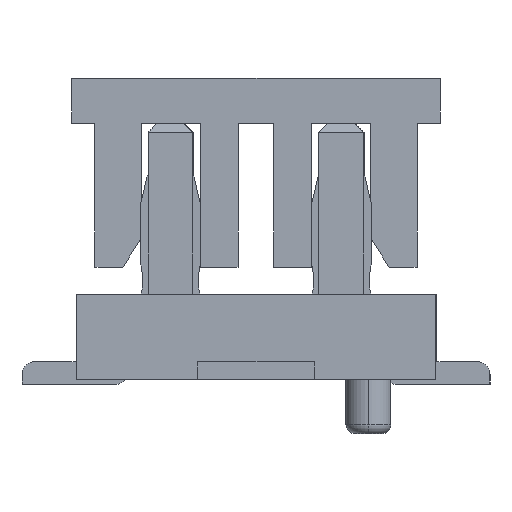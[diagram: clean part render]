
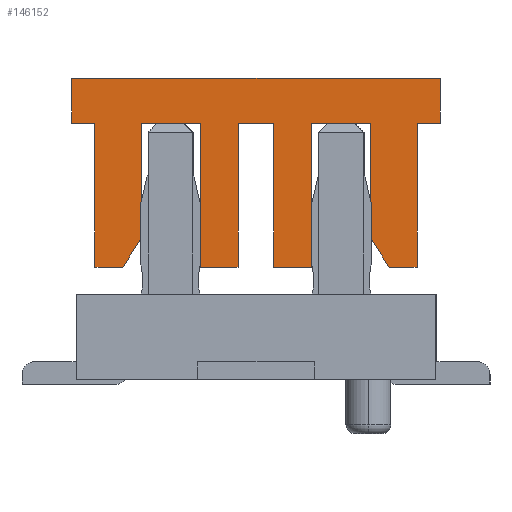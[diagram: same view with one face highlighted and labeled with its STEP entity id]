
A CAD part, left-side view. The second image highlights one B-rep face of the part: STEP entity #146152.
In plain terms, the highlighted planar face has unit normal (-1, 0, 0).
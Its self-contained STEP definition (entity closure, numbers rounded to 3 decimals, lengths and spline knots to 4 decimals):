
#145485=CARTESIAN_POINT('Vertex',(-4.,-0.62,1.25)) ;
#145490=CARTESIAN_POINT('Line Origine',(-4.,-0.41,1.25)) ;
#145494=CARTESIAN_POINT('Vertex',(-4.,-0.2,1.25)) ;
#145521=CARTESIAN_POINT('Line Origine',(-4.,-0.2,2.05)) ;
#145525=CARTESIAN_POINT('Vertex',(-4.,-0.2,2.85)) ;
#145552=CARTESIAN_POINT('Line Origine',(-4.,0.,2.85)) ;
#145556=CARTESIAN_POINT('Vertex',(-4.,0.2,2.85)) ;
#145583=CARTESIAN_POINT('Line Origine',(-4.,0.2,2.05)) ;
#145587=CARTESIAN_POINT('Vertex',(-4.,0.2,1.25)) ;
#145609=CARTESIAN_POINT('Line Origine',(-4.,0.41,1.25)) ;
#145613=CARTESIAN_POINT('Vertex',(-4.,0.62,1.25)) ;
#145640=CARTESIAN_POINT('Line Origine',(-4.,0.62,2.05)) ;
#145644=CARTESIAN_POINT('Vertex',(-4.,0.62,2.85)) ;
#145666=CARTESIAN_POINT('Line Origine',(-4.,0.945,2.85)) ;
#145670=CARTESIAN_POINT('Vertex',(-4.,1.27,2.85)) ;
#145697=CARTESIAN_POINT('Line Origine',(-4.,1.27,2.215)) ;
#145701=CARTESIAN_POINT('Vertex',(-4.,1.27,1.58)) ;
#145728=CARTESIAN_POINT('Line Origine',(-4.,1.375,1.415)) ;
#145732=CARTESIAN_POINT('Vertex',(-4.,1.48,1.25)) ;
#145754=CARTESIAN_POINT('Line Origine',(-4.,1.635,1.25)) ;
#145758=CARTESIAN_POINT('Vertex',(-4.,1.79,1.25)) ;
#145785=CARTESIAN_POINT('Line Origine',(-4.,1.79,2.05)) ;
#145789=CARTESIAN_POINT('Vertex',(-4.,1.79,2.85)) ;
#145811=CARTESIAN_POINT('Line Origine',(-4.,1.92,2.85)) ;
#145815=CARTESIAN_POINT('Vertex',(-4.,2.05,2.85)) ;
#145842=CARTESIAN_POINT('Line Origine',(-4.,2.05,3.1)) ;
#145846=CARTESIAN_POINT('Vertex',(-4.,2.05,3.35)) ;
#145873=CARTESIAN_POINT('Line Origine',(-4.,0.,3.35)) ;
#145877=CARTESIAN_POINT('Vertex',(-4.,-2.05,3.35)) ;
#145904=CARTESIAN_POINT('Line Origine',(-4.,-2.05,3.1)) ;
#145908=CARTESIAN_POINT('Vertex',(-4.,-2.05,2.85)) ;
#145930=CARTESIAN_POINT('Line Origine',(-4.,-1.92,2.85)) ;
#145934=CARTESIAN_POINT('Vertex',(-4.,-1.79,2.85)) ;
#145961=CARTESIAN_POINT('Line Origine',(-4.,-1.79,2.05)) ;
#145965=CARTESIAN_POINT('Vertex',(-4.,-1.79,1.25)) ;
#145987=CARTESIAN_POINT('Line Origine',(-4.,-1.635,1.25)) ;
#145991=CARTESIAN_POINT('Vertex',(-4.,-1.48,1.25)) ;
#146018=CARTESIAN_POINT('Line Origine',(-4.,-1.375,1.415)) ;
#146022=CARTESIAN_POINT('Vertex',(-4.,-1.27,1.58)) ;
#146049=CARTESIAN_POINT('Line Origine',(-4.,-1.27,2.215)) ;
#146053=CARTESIAN_POINT('Vertex',(-4.,-1.27,2.85)) ;
#146075=CARTESIAN_POINT('Line Origine',(-4.,-0.945,2.85)) ;
#146079=CARTESIAN_POINT('Vertex',(-4.,-0.62,2.85)) ;
#146106=CARTESIAN_POINT('Line Origine',(-4.,-0.62,2.05)) ;
#146123=CARTESIAN_POINT('Axis2P3D Location',(-4.,0.,0.)) ;
#145491=DIRECTION('Vector Direction',(0.,1.,0.)) ;
#145522=DIRECTION('Vector Direction',(0.,0.,1.)) ;
#145553=DIRECTION('Vector Direction',(0.,1.,0.)) ;
#145584=DIRECTION('Vector Direction',(0.,0.,-1.)) ;
#145610=DIRECTION('Vector Direction',(0.,1.,0.)) ;
#145641=DIRECTION('Vector Direction',(0.,0.,1.)) ;
#145667=DIRECTION('Vector Direction',(0.,1.,0.)) ;
#145698=DIRECTION('Vector Direction',(0.,0.,-1.)) ;
#145729=DIRECTION('Vector Direction',(0.,0.537,-0.844)) ;
#145755=DIRECTION('Vector Direction',(0.,1.,0.)) ;
#145786=DIRECTION('Vector Direction',(0.,0.,1.)) ;
#145812=DIRECTION('Vector Direction',(0.,1.,0.)) ;
#145843=DIRECTION('Vector Direction',(0.,0.,1.)) ;
#145874=DIRECTION('Vector Direction',(0.,1.,0.)) ;
#145905=DIRECTION('Vector Direction',(0.,0.,1.)) ;
#145931=DIRECTION('Vector Direction',(0.,-1.,0.)) ;
#145962=DIRECTION('Vector Direction',(0.,0.,1.)) ;
#145988=DIRECTION('Vector Direction',(0.,-1.,0.)) ;
#146019=DIRECTION('Vector Direction',(0.,-0.537,-0.844)) ;
#146050=DIRECTION('Vector Direction',(0.,0.,-1.)) ;
#146076=DIRECTION('Vector Direction',(0.,-1.,0.)) ;
#146107=DIRECTION('Vector Direction',(0.,0.,1.)) ;
#146124=DIRECTION('Axis2P3D Direction',(1.,0.,0.)) ;
#146125=DIRECTION('Axis2P3D XDirection',(0.,1.,0.)) ;
#146126=AXIS2_PLACEMENT_3D('Plane Axis2P3D',#146123,#146124,#146125) ;
#146129=ORIENTED_EDGE('',*,*,#146110,.F.) ;
#146130=ORIENTED_EDGE('',*,*,#146081,.F.) ;
#146131=ORIENTED_EDGE('',*,*,#146055,.F.) ;
#146132=ORIENTED_EDGE('',*,*,#146024,.F.) ;
#146133=ORIENTED_EDGE('',*,*,#145993,.F.) ;
#146134=ORIENTED_EDGE('',*,*,#145967,.F.) ;
#146135=ORIENTED_EDGE('',*,*,#145936,.F.) ;
#146136=ORIENTED_EDGE('',*,*,#145910,.F.) ;
#146137=ORIENTED_EDGE('',*,*,#145879,.F.) ;
#146138=ORIENTED_EDGE('',*,*,#145848,.F.) ;
#146139=ORIENTED_EDGE('',*,*,#145817,.F.) ;
#146140=ORIENTED_EDGE('',*,*,#145791,.F.) ;
#146141=ORIENTED_EDGE('',*,*,#145760,.F.) ;
#146142=ORIENTED_EDGE('',*,*,#145734,.F.) ;
#146143=ORIENTED_EDGE('',*,*,#145703,.F.) ;
#146144=ORIENTED_EDGE('',*,*,#145672,.F.) ;
#146145=ORIENTED_EDGE('',*,*,#145646,.F.) ;
#146146=ORIENTED_EDGE('',*,*,#145615,.F.) ;
#146147=ORIENTED_EDGE('',*,*,#145589,.F.) ;
#146148=ORIENTED_EDGE('',*,*,#145558,.F.) ;
#146149=ORIENTED_EDGE('',*,*,#145527,.F.) ;
#146150=ORIENTED_EDGE('',*,*,#145496,.F.) ;
#145492=VECTOR('Line Direction',#145491,1.) ;
#145523=VECTOR('Line Direction',#145522,1.) ;
#145554=VECTOR('Line Direction',#145553,1.) ;
#145585=VECTOR('Line Direction',#145584,1.) ;
#145611=VECTOR('Line Direction',#145610,1.) ;
#145642=VECTOR('Line Direction',#145641,1.) ;
#145668=VECTOR('Line Direction',#145667,1.) ;
#145699=VECTOR('Line Direction',#145698,1.) ;
#145730=VECTOR('Line Direction',#145729,1.) ;
#145756=VECTOR('Line Direction',#145755,1.) ;
#145787=VECTOR('Line Direction',#145786,1.) ;
#145813=VECTOR('Line Direction',#145812,1.) ;
#145844=VECTOR('Line Direction',#145843,1.) ;
#145875=VECTOR('Line Direction',#145874,1.) ;
#145906=VECTOR('Line Direction',#145905,1.) ;
#145932=VECTOR('Line Direction',#145931,1.) ;
#145963=VECTOR('Line Direction',#145962,1.) ;
#145989=VECTOR('Line Direction',#145988,1.) ;
#146020=VECTOR('Line Direction',#146019,1.) ;
#146051=VECTOR('Line Direction',#146050,1.) ;
#146077=VECTOR('Line Direction',#146076,1.) ;
#146108=VECTOR('Line Direction',#146107,1.) ;
#146152=ADVANCED_FACE('\X2\76D65B50\X0\',(#146151),#146127,.F.) ;
#145496=EDGE_CURVE('',#145486,#145495,#145493,.T.) ;
#145527=EDGE_CURVE('',#145495,#145526,#145524,.T.) ;
#145558=EDGE_CURVE('',#145526,#145557,#145555,.T.) ;
#145589=EDGE_CURVE('',#145557,#145588,#145586,.T.) ;
#145615=EDGE_CURVE('',#145588,#145614,#145612,.T.) ;
#145646=EDGE_CURVE('',#145614,#145645,#145643,.T.) ;
#145672=EDGE_CURVE('',#145645,#145671,#145669,.T.) ;
#145703=EDGE_CURVE('',#145671,#145702,#145700,.T.) ;
#145734=EDGE_CURVE('',#145702,#145733,#145731,.T.) ;
#145760=EDGE_CURVE('',#145733,#145759,#145757,.T.) ;
#145791=EDGE_CURVE('',#145759,#145790,#145788,.T.) ;
#145817=EDGE_CURVE('',#145790,#145816,#145814,.T.) ;
#145848=EDGE_CURVE('',#145816,#145847,#145845,.T.) ;
#145879=EDGE_CURVE('',#145847,#145878,#145876,.F.) ;
#145910=EDGE_CURVE('',#145878,#145909,#145907,.F.) ;
#145936=EDGE_CURVE('',#145909,#145935,#145933,.F.) ;
#145967=EDGE_CURVE('',#145935,#145966,#145964,.F.) ;
#145993=EDGE_CURVE('',#145966,#145992,#145990,.F.) ;
#146024=EDGE_CURVE('',#145992,#146023,#146021,.F.) ;
#146055=EDGE_CURVE('',#146023,#146054,#146052,.F.) ;
#146081=EDGE_CURVE('',#146054,#146080,#146078,.F.) ;
#146110=EDGE_CURVE('',#146080,#145486,#146109,.F.) ;
#146128=EDGE_LOOP('',(#146129,#146130,#146131,#146132,#146133,#146134,#146135,#146136,#146137,#146138,#146139,#146140,#146141,#146142,#146143,#146144,#146145,#146146,#146147,#146148,#146149,#146150)) ;
#146151=FACE_OUTER_BOUND('',#146128,.T.) ;
#145493=LINE('Line',#145490,#145492) ;
#145524=LINE('Line',#145521,#145523) ;
#145555=LINE('Line',#145552,#145554) ;
#145586=LINE('Line',#145583,#145585) ;
#145612=LINE('Line',#145609,#145611) ;
#145643=LINE('Line',#145640,#145642) ;
#145669=LINE('Line',#145666,#145668) ;
#145700=LINE('Line',#145697,#145699) ;
#145731=LINE('Line',#145728,#145730) ;
#145757=LINE('Line',#145754,#145756) ;
#145788=LINE('Line',#145785,#145787) ;
#145814=LINE('Line',#145811,#145813) ;
#145845=LINE('Line',#145842,#145844) ;
#145876=LINE('Line',#145873,#145875) ;
#145907=LINE('Line',#145904,#145906) ;
#145933=LINE('Line',#145930,#145932) ;
#145964=LINE('Line',#145961,#145963) ;
#145990=LINE('Line',#145987,#145989) ;
#146021=LINE('Line',#146018,#146020) ;
#146052=LINE('Line',#146049,#146051) ;
#146078=LINE('Line',#146075,#146077) ;
#146109=LINE('Line',#146106,#146108) ;
#146127=PLANE('Plane',#146126) ;
#145486=VERTEX_POINT('',#145485) ;
#145495=VERTEX_POINT('',#145494) ;
#145526=VERTEX_POINT('',#145525) ;
#145557=VERTEX_POINT('',#145556) ;
#145588=VERTEX_POINT('',#145587) ;
#145614=VERTEX_POINT('',#145613) ;
#145645=VERTEX_POINT('',#145644) ;
#145671=VERTEX_POINT('',#145670) ;
#145702=VERTEX_POINT('',#145701) ;
#145733=VERTEX_POINT('',#145732) ;
#145759=VERTEX_POINT('',#145758) ;
#145790=VERTEX_POINT('',#145789) ;
#145816=VERTEX_POINT('',#145815) ;
#145847=VERTEX_POINT('',#145846) ;
#145878=VERTEX_POINT('',#145877) ;
#145909=VERTEX_POINT('',#145908) ;
#145935=VERTEX_POINT('',#145934) ;
#145966=VERTEX_POINT('',#145965) ;
#145992=VERTEX_POINT('',#145991) ;
#146023=VERTEX_POINT('',#146022) ;
#146054=VERTEX_POINT('',#146053) ;
#146080=VERTEX_POINT('',#146079) ;
